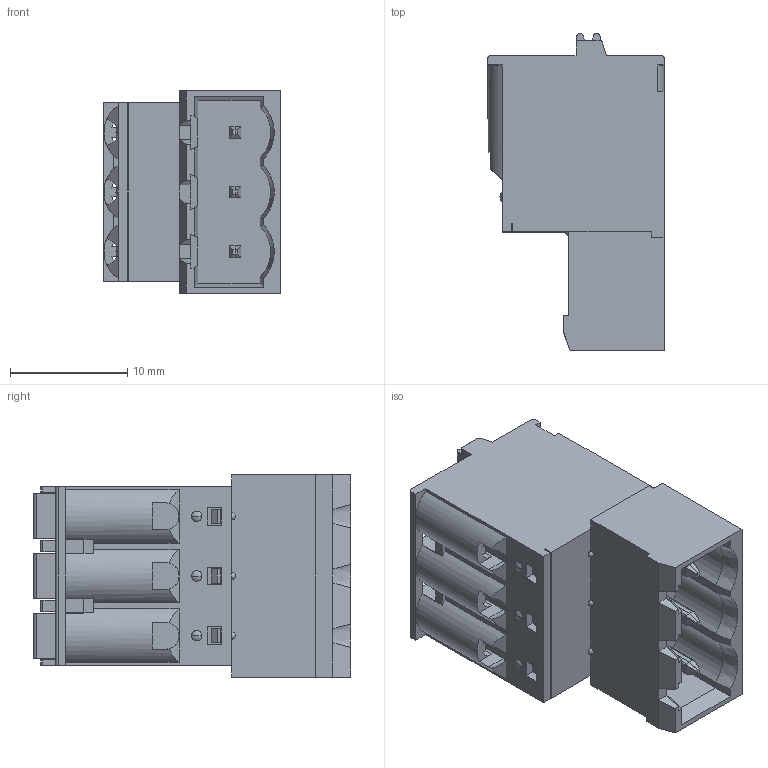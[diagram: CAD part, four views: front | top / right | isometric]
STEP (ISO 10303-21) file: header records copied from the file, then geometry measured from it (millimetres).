
FILE_DESCRIPTION((''),'2;1');
FILE_NAME('3PIN_SW0001','2019-05-29T',('zhenbing.lai'),(''),'CREO PARAMETRIC BY PTC INC, 2016260','CREO PARAMETRIC BY PTC INC, 2016260','');
FILE_SCHEMA(('CONFIG_CONTROL_DESIGN'));
Length unit declared in the file: millimetre
Products named in the file (1): 3PIN_SW0001
Bounding box: 15 x 27 x 17.24 mm (x, y, z)
Volume: 3893.1 mm3; surface area: 2794.5 mm2
Topology: 1 solids, 1 shells, 395 faces, 1096 edges, 711 vertices
Faces by surface type: plane 313, cylinder 64, sphere 9, bspline 6, cone 3
Entity records: 12960 total; most frequent: CARTESIAN_POINT 2887, ORIENTED_EDGE 2174, DIRECTION 1934, EDGE_CURVE 1087, VECTOR 856, LINE 856, VERTEX_POINT 711, AXIS2_PLACEMENT_3D 539
